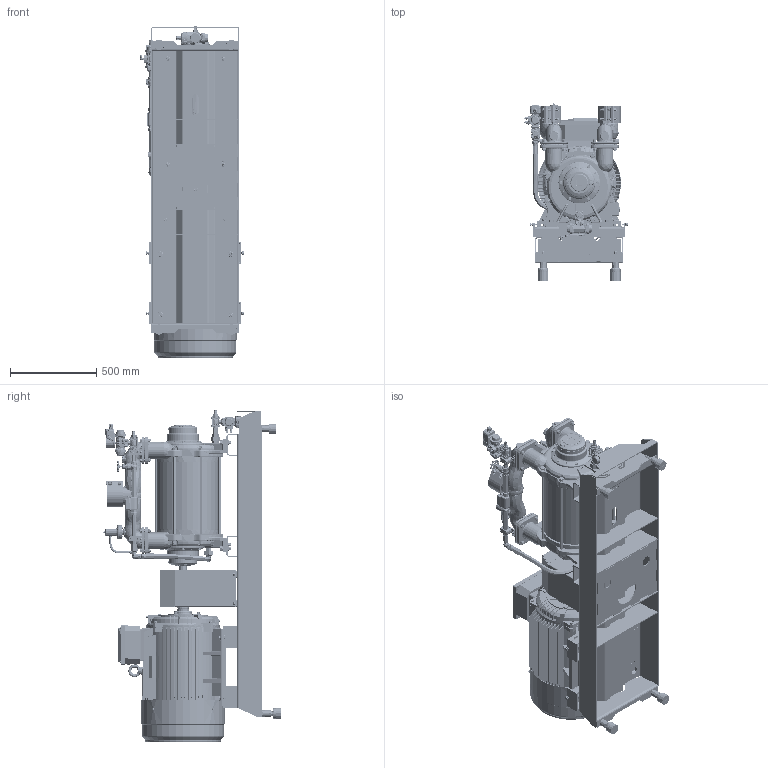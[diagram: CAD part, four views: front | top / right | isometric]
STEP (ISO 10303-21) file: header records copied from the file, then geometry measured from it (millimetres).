
FILE_DESCRIPTION(/* description */ (''),/* implementation_level */ '2;1');
FILE_NAME(/* name */ '1700120A.stp',/* time_stamp */ '2025-08-01T09:44:04+02:00',/* author */ ('JJ'),/* organization */ (''),/* preprocessor_version */ 'ST-DEVELOPER v20',/* originating_system */ 'Autodesk Inventor 2025',/* authorisation */ '');
FILE_SCHEMA (('AUTOMOTIVE_DESIGN { 1 0 10303 214 3 1 1 }'));
Products named in the file (71): 1700120; 946000138; 932400048; 932300038; 932300003; 932400049; 910100155; 910000526; 910000297; 910000517; 1632204; 910100021; 1632205; 1632208; 910100161; 961000522; 910200008; 910000150; 1619221_Simplify_OMS; 1632214; 944600330; 925200200; 948000429; 925000732; 925200594; 925000793; 925000880; 1632212; 927000162-388 version 3; 925000873; 925000882; 925000882_part1; 925000882_part2; 925000878; 925000792; 1632216; 944600329; 944600328; 910100191; 910000114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
Assembly tree (201 placements, depth 4):
  1700120
    946000138
    932400048  x2
    932300038
    932300003
    932400049
    910100155  x4
    910000526  x4
    910100021  x12
    910000297  x4
    910000517  x4
    1632204  x4
    1632205  x4
    1632208  x4
    910100161  x4
    961000522  x4
    910200008  x4
    910000150  x4
    1619221_Simplify_OMS
    1632214
      944600330
      925200200
      948000429
      925000732
      925200594
      925000793
      944600329
      944600328
      910100191  x4
      910000114  x4
      948000434
        948000434_part2
        948000434_part1
      915000241  x2
      925000725
      925000880
    1632212
      925000873  x2
      925000878  x2
      925000882  x2
        925000882_part1
        925000882_part2
      927000162-388 version 3
    925000792
    1632216
      944600329
      944600328
      910100191  x4
      910000114  x4
      948000434
        948000434_part2
        948000434_part1
      915000241  x2
      925000725
      925000869
      925200610
    925000857  x4
    910300370  x4
    1632246  x2
    910100125  x4
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Bounding box: 604.85 x 1025.15 x 1921.48 mm (x, y, z)
Volume: 128232213.8 mm3; surface area: 16444063.2 mm2
Topology: 334 solids, 336 shells, 24468 faces, 61772 edges, 38904 vertices
Faces by surface type: plane 9781, cylinder 5503, bspline 4899, cone 2212, torus 1798, sphere 275
Full cylindrical faces by diameter (mm): 0.8 x1, 0.847 x2, 0.857 x2, 1.656 x4, 1.676 x1, 1.7 x4, 1.8 x4, 2 x28, 2.2 x2, 2.5 x6, 3 x4, 3.2 x3, 3.3 x4, 3.6 x4, 4 x4, 4.134 x8, 4.2 x16, 4.3 x8, 4.45 x6, 4.567 x8, 4.917 x14, 5 x12, 5.3 x8, 5.589 x1, 5.6 x16, 6 x40, 6.4 x4, 6.5 x8, 6.647 x2, 6.7 x16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
Entity records: 805101 total; most frequent: CARTESIAN_POINT 453878, ORIENTED_EDGE 74738, DIRECTION 65163, EDGE_CURVE 37369, AXIS2_PLACEMENT_3D 24145, VERTEX_POINT 23596, LINE 16873, VECTOR 16873
